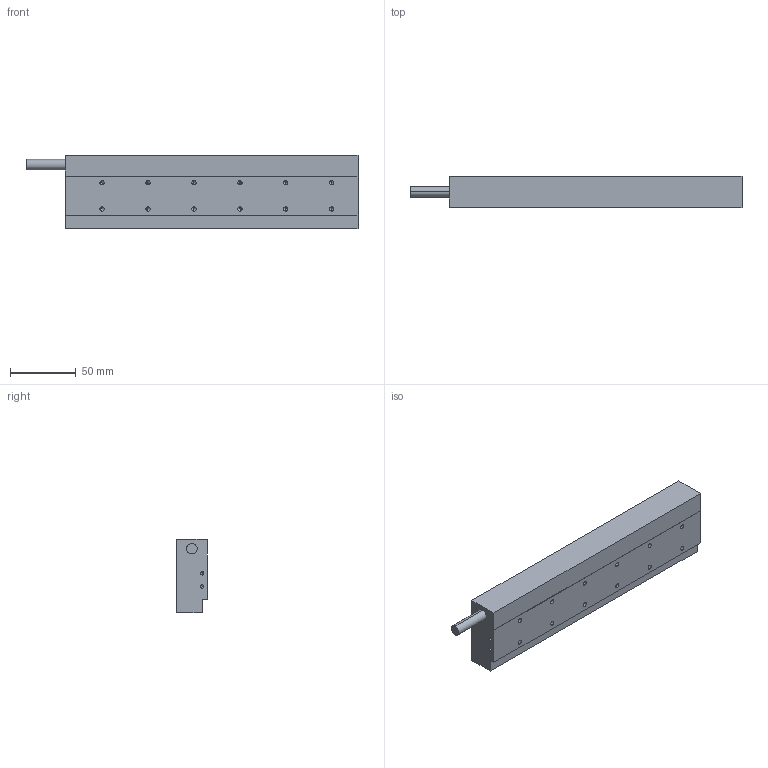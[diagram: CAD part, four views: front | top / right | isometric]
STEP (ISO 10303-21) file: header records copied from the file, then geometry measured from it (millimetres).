
FILE_DESCRIPTION (( 'STEP AP214' ), '1' );
FILE_NAME ('MK12雄赽.STEP', '2025-09-05T08:55:38', ( '' ), ( '' ), 'SwSTEP 2.0', 'SolidWorks 2016', '' );
FILE_SCHEMA (( 'AUTOMOTIVE_DESIGN' ));
Length unit declared in the file: millimetre
Products named in the file (1): MK12雄赽
Bounding box: 253 x 23.7 x 56 mm (x, y, z)
Volume: 287114.1 mm3; surface area: 39751.2 mm2
Topology: 1 solids, 1 shells, 69 faces, 170 edges, 90 vertices
Faces by surface type: cylinder 30, cone 28, plane 11
Entity records: 2243 total; most frequent: DIRECTION 342, CARTESIAN_POINT 302, ORIENTED_EDGE 284, EDGE_CURVE 142, AXIS2_PLACEMENT_3D 130, VERTEX_POINT 90, EDGE_LOOP 84, LINE 82
